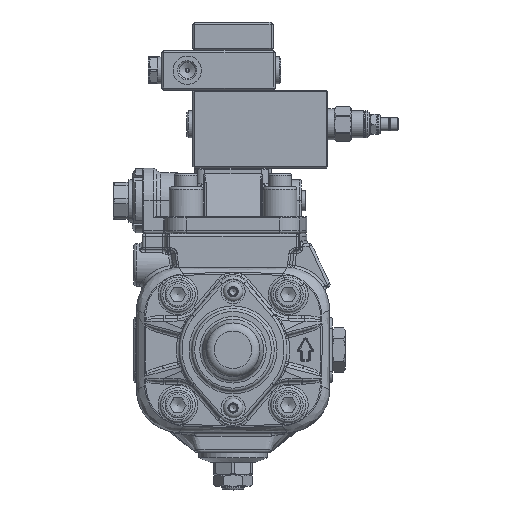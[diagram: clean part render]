
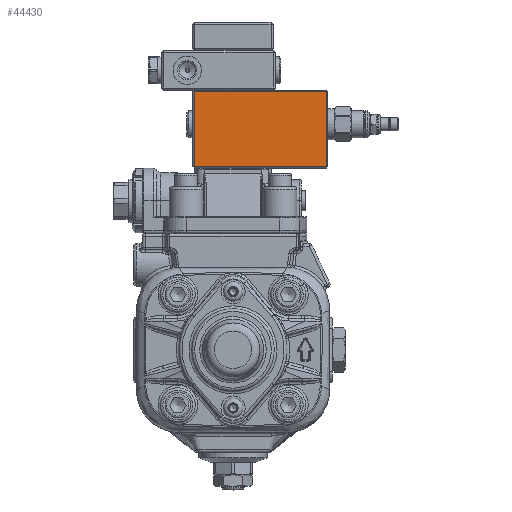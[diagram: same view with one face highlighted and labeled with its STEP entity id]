
A CAD part, top view. The second image highlights one B-rep face of the part: STEP entity #44430.
In plain terms, the highlighted planar face has unit normal (0, 0, 1).
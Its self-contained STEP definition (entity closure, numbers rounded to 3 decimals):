
#2195=PLANE('',#48664);
#4828=FACE_OUTER_BOUND('',#7465,.T.);
#7465=EDGE_LOOP('',(#36998,#36999,#37000,#37001));
#13335=LINE('',#91362,#15728);
#13336=LINE('',#91364,#15729);
#13337=LINE('',#91366,#15730);
#13338=LINE('',#91367,#15731);
#15728=VECTOR('',#59017,10.);
#15729=VECTOR('',#59018,10.);
#15730=VECTOR('',#59019,10.);
#15731=VECTOR('',#59020,10.);
#19467=VERTEX_POINT('',#91360);
#19468=VERTEX_POINT('',#91361);
#19469=VERTEX_POINT('',#91363);
#19470=VERTEX_POINT('',#91365);
#25443=EDGE_CURVE('',#19467,#19468,#13335,.T.);
#25444=EDGE_CURVE('',#19469,#19467,#13336,.T.);
#25445=EDGE_CURVE('',#19470,#19469,#13337,.T.);
#25446=EDGE_CURVE('',#19468,#19470,#13338,.T.);
#36998=ORIENTED_EDGE('',*,*,#25443,.F.);
#36999=ORIENTED_EDGE('',*,*,#25444,.F.);
#37000=ORIENTED_EDGE('',*,*,#25445,.F.);
#37001=ORIENTED_EDGE('',*,*,#25446,.F.);
#44430=ADVANCED_FACE('',(#4828),#2195,.T.);
#48664=AXIS2_PLACEMENT_3D('',#91359,#59015,#59016);
#59015=DIRECTION('center_axis',(0.,0.,
1.));
#59016=DIRECTION('ref_axis',(0.,1.,0.));
#59017=DIRECTION('',(1.,0.,0.));
#59018=DIRECTION('',(0.,1.,0.));
#59019=DIRECTION('',(-1.,0.,0.));
#59020=DIRECTION('',(0.,-1.,0.));
#91359=CARTESIAN_POINT('Origin',(-34.79,170.996,41.252));
#91360=CARTESIAN_POINT('',(-33.79,169.996,41.252));
#91361=CARTESIAN_POINT('',(59.21,169.996,41.252));
#91362=CARTESIAN_POINT('',(-11.04,169.996,41.252));
#91363=CARTESIAN_POINT('',(-33.79,116.996,41.252));
#91364=CARTESIAN_POINT('',(-33.79,170.996,41.252));
#91365=CARTESIAN_POINT('',(59.21,116.996,41.252));
#91366=CARTESIAN_POINT('',(-11.04,116.996,41.252));
#91367=CARTESIAN_POINT('',(59.21,170.996,41.252));
